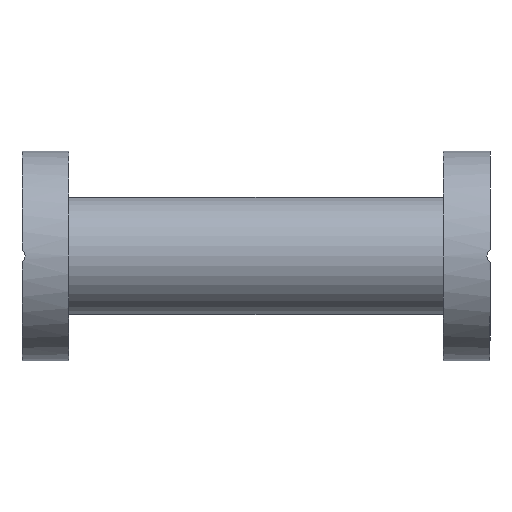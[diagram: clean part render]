
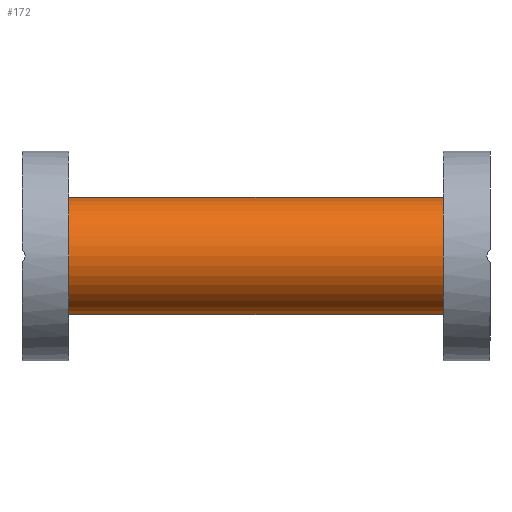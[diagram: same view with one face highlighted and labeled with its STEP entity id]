
A CAD part, front view. The second image highlights one B-rep face of the part: STEP entity #172.
In plain terms, the highlighted cylindrical face has radius 9.5 mm (diameter 19 mm), a full revolution.
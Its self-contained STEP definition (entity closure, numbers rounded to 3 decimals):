
#172 = ADVANCED_FACE( '', ( #333, #334 ), #335, .T. );
#333 = FACE_OUTER_BOUND( '', #473, .T. );
#334 = FACE_OUTER_BOUND( '', #474, .T. );
#335 = CYLINDRICAL_SURFACE( '', #475, 9.5 );
#473 = EDGE_LOOP( '', ( #633 ) );
#474 = EDGE_LOOP( '', ( #634 ) );
#475 = AXIS2_PLACEMENT_3D( '', #635, #636, #637 );
#633 = ORIENTED_EDGE( '', *, *, #687, .F. );
#634 = ORIENTED_EDGE( '', *, *, #684, .T. );
#635 = CARTESIAN_POINT( '', ( 33.2, 0., 0. ) );
#636 = DIRECTION( '', ( -1., 0., 0. ) );
#637 = DIRECTION( '', ( 0., 0., 1. ) );
#684 = EDGE_CURVE( '', #759, #759, #760, .T. );
#687 = EDGE_CURVE( '', #764, #764, #765, .T. );
#759 = VERTEX_POINT( '', #892 );
#760 = CIRCLE( '', #893, 9.5 );
#764 = VERTEX_POINT( '', #897 );
#765 = CIRCLE( '', #898, 9.5 );
#892 = CARTESIAN_POINT( '', ( 33.2, 9.5, 0. ) );
#893 = AXIS2_PLACEMENT_3D( '', #995, #996, #997 );
#897 = CARTESIAN_POINT( '', ( -33.2, 9.5, 0. ) );
#898 = AXIS2_PLACEMENT_3D( '', #1001, #1002, #1003 );
#995 = CARTESIAN_POINT( '', ( 33.2, 0., 0. ) );
#996 = DIRECTION( '', ( -1., 0., 0. ) );
#997 = DIRECTION( '', ( 0., 1., 0. ) );
#1001 = CARTESIAN_POINT( '', ( -33.2, 0., 0. ) );
#1002 = DIRECTION( '', ( -1., 0., 0. ) );
#1003 = DIRECTION( '', ( 0., 1., 0. ) );
